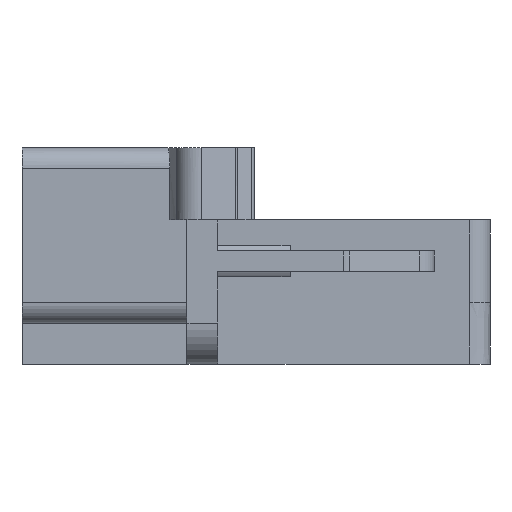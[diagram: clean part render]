
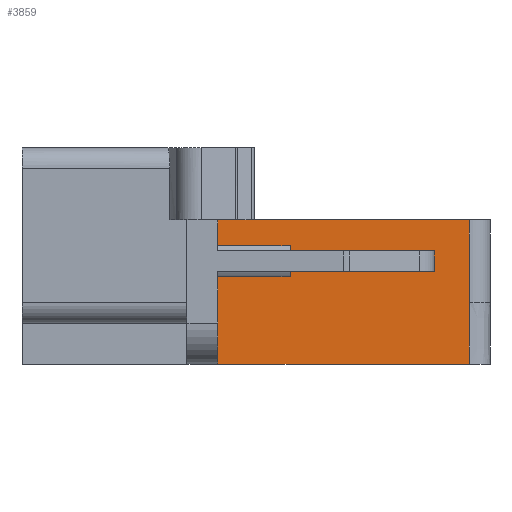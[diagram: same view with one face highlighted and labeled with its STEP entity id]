
A CAD part, left-side view. The second image highlights one B-rep face of the part: STEP entity #3859.
In plain terms, the highlighted planar face has unit normal (-1, 0, 0).
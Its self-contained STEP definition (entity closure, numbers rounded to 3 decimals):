
#75=AXIS2_PLACEMENT_3D('Plane Axis2P3D',#72,#73,#74) ;
#72=CARTESIAN_POINT('Axis2P3D Location',(-1.,9.8,0.)) ;
#1169=CARTESIAN_POINT('Vertex',(-1.,23.,0.)) ;
#1172=CARTESIAN_POINT('Line Origine',(-1.,22.864,0.)) ;
#1176=CARTESIAN_POINT('Vertex',(-1.,22.728,0.)) ;
#2894=CARTESIAN_POINT('Vertex',(-1.,23.,-1.25)) ;
#2897=CARTESIAN_POINT('Line Origine',(-1.,23.,-0.625)) ;
#2910=CARTESIAN_POINT('Line Origine',(-1.,16.764,0.)) ;
#2914=CARTESIAN_POINT('Vertex',(-1.,10.8,0.)) ;
#3111=CARTESIAN_POINT('Line Origine',(-1.,23.,-5.5)) ;
#3115=CARTESIAN_POINT('Vertex',(-1.,23.,-7.)) ;
#3117=CARTESIAN_POINT('Vertex',(-1.,23.,-4.)) ;
#3120=CARTESIAN_POINT('Line Origine',(-1.,23.,-3.375)) ;
#3124=CARTESIAN_POINT('Vertex',(-1.,23.,-2.75)) ;
#3178=CARTESIAN_POINT('Vertex',(-1.,19.5,-2.5)) ;
#3181=CARTESIAN_POINT('Line Origine',(-1.,16.,-2.5)) ;
#3185=CARTESIAN_POINT('Vertex',(-1.,12.5,-2.5)) ;
#3266=CARTESIAN_POINT('Vertex',(-1.,12.5,-1.5)) ;
#3269=CARTESIAN_POINT('Line Origine',(-1.,16.,-1.5)) ;
#3273=CARTESIAN_POINT('Vertex',(-1.,19.5,-1.5)) ;
#3309=CARTESIAN_POINT('Vertex',(-1.,19.5,-2.75)) ;
#3312=CARTESIAN_POINT('Line Origine',(-1.,19.5,-2.625)) ;
#3328=CARTESIAN_POINT('Line Origine',(-1.,22.,-2.75)) ;
#3349=CARTESIAN_POINT('Vertex',(-1.,10.8,-4.)) ;
#3359=CARTESIAN_POINT('Line Origine',(-1.,10.8,-2.)) ;
#3375=CARTESIAN_POINT('Vertex',(-1.,19.5,-1.25)) ;
#3378=CARTESIAN_POINT('Line Origine',(-1.,22.,-1.25)) ;
#3390=CARTESIAN_POINT('Line Origine',(-1.,19.5,-1.375)) ;
#3411=CARTESIAN_POINT('Line Origine',(-1.,12.5,-2.)) ;
#3763=CARTESIAN_POINT('Line Origine',(-1.,10.8,-4.89)) ;
#3767=CARTESIAN_POINT('Vertex',(-1.,10.8,-7.)) ;
#3802=CARTESIAN_POINT('Control Point',(-1.,23.,-7.)) ;
#3803=CARTESIAN_POINT('Control Point',(-1.,19.95,-7.)) ;
#3804=CARTESIAN_POINT('Control Point',(-1.,16.9,-7.)) ;
#3805=CARTESIAN_POINT('Control Point',(-1.,13.85,-7.)) ;
#3806=CARTESIAN_POINT('Control Point',(-1.,10.8,-7.)) ;
#73=DIRECTION('Axis2P3D Direction',(-1.,0.,0.)) ;
#74=DIRECTION('Axis2P3D XDirection',(0.,1.,0.)) ;
#1173=DIRECTION('Vector Direction',(0.,1.,0.)) ;
#2898=DIRECTION('Vector Direction',(0.,0.,1.)) ;
#2911=DIRECTION('Vector Direction',(0.,1.,0.)) ;
#3112=DIRECTION('Vector Direction',(0.,0.,1.)) ;
#3121=DIRECTION('Vector Direction',(0.,0.,1.)) ;
#3182=DIRECTION('Vector Direction',(0.,1.,0.)) ;
#3270=DIRECTION('Vector Direction',(0.,1.,0.)) ;
#3313=DIRECTION('Vector Direction',(0.,0.,-1.)) ;
#3329=DIRECTION('Vector Direction',(0.,1.,0.)) ;
#3360=DIRECTION('Vector Direction',(0.,0.,-1.)) ;
#3379=DIRECTION('Vector Direction',(0.,1.,0.)) ;
#3391=DIRECTION('Vector Direction',(0.,0.,-1.)) ;
#3412=DIRECTION('Vector Direction',(0.,0.,1.)) ;
#3764=DIRECTION('Vector Direction',(0.,0.,1.)) ;
#1174=VECTOR('Line Direction',#1173,1.) ;
#2899=VECTOR('Line Direction',#2898,1.) ;
#2912=VECTOR('Line Direction',#2911,1.) ;
#3113=VECTOR('Line Direction',#3112,1.) ;
#3122=VECTOR('Line Direction',#3121,1.) ;
#3183=VECTOR('Line Direction',#3182,1.) ;
#3271=VECTOR('Line Direction',#3270,1.) ;
#3314=VECTOR('Line Direction',#3313,1.) ;
#3330=VECTOR('Line Direction',#3329,1.) ;
#3361=VECTOR('Line Direction',#3360,1.) ;
#3380=VECTOR('Line Direction',#3379,1.) ;
#3392=VECTOR('Line Direction',#3391,1.) ;
#3413=VECTOR('Line Direction',#3412,1.) ;
#3765=VECTOR('Line Direction',#3764,1.) ;
#3843=ORIENTED_EDGE('',*,*,#3316,.T.) ;
#3844=ORIENTED_EDGE('',*,*,#3332,.F.) ;
#3845=ORIENTED_EDGE('',*,*,#3126,.F.) ;
#3846=ORIENTED_EDGE('',*,*,#3119,.F.) ;
#3847=ORIENTED_EDGE('',*,*,#3807,.F.) ;
#3848=ORIENTED_EDGE('',*,*,#3769,.T.) ;
#3849=ORIENTED_EDGE('',*,*,#3363,.F.) ;
#3850=ORIENTED_EDGE('',*,*,#2916,.T.) ;
#3851=ORIENTED_EDGE('',*,*,#1178,.T.) ;
#3852=ORIENTED_EDGE('',*,*,#2901,.F.) ;
#3853=ORIENTED_EDGE('',*,*,#3382,.T.) ;
#3854=ORIENTED_EDGE('',*,*,#3394,.T.) ;
#3855=ORIENTED_EDGE('',*,*,#3275,.F.) ;
#3856=ORIENTED_EDGE('',*,*,#3415,.F.) ;
#3857=ORIENTED_EDGE('',*,*,#3187,.T.) ;
#3859=ADVANCED_FACE('\X2\96F64EF651E04F554F53\X0\',(#3858),#76,.T.) ;
#3801=B_SPLINE_CURVE_WITH_KNOTS('',4,(#3802,#3803,#3804,#3805,#3806),.UNSPECIFIED.,.F.,.U.,(5,5),(0.,12.2),.UNSPECIFIED.) ;
#1178=EDGE_CURVE('',#1177,#1170,#1175,.T.) ;
#2901=EDGE_CURVE('',#2895,#1170,#2900,.T.) ;
#2916=EDGE_CURVE('',#2915,#1177,#2913,.T.) ;
#3119=EDGE_CURVE('',#3116,#3118,#3114,.T.) ;
#3126=EDGE_CURVE('',#3118,#3125,#3123,.T.) ;
#3187=EDGE_CURVE('',#3186,#3179,#3184,.T.) ;
#3275=EDGE_CURVE('',#3267,#3274,#3272,.T.) ;
#3316=EDGE_CURVE('',#3179,#3310,#3315,.T.) ;
#3332=EDGE_CURVE('',#3125,#3310,#3331,.F.) ;
#3363=EDGE_CURVE('',#2915,#3350,#3362,.T.) ;
#3382=EDGE_CURVE('',#2895,#3376,#3381,.F.) ;
#3394=EDGE_CURVE('',#3376,#3274,#3393,.T.) ;
#3415=EDGE_CURVE('',#3186,#3267,#3414,.T.) ;
#3769=EDGE_CURVE('',#3768,#3350,#3766,.T.) ;
#3807=EDGE_CURVE('',#3768,#3116,#3801,.F.) ;
#3842=EDGE_LOOP('',(#3843,#3844,#3845,#3846,#3847,#3848,#3849,#3850,#3851,#3852,#3853,#3854,#3855,#3856,#3857)) ;
#3858=FACE_OUTER_BOUND('',#3842,.T.) ;
#1175=LINE('Line',#1172,#1174) ;
#2900=LINE('Line',#2897,#2899) ;
#2913=LINE('Line',#2910,#2912) ;
#3114=LINE('Line',#3111,#3113) ;
#3123=LINE('Line',#3120,#3122) ;
#3184=LINE('Line',#3181,#3183) ;
#3272=LINE('Line',#3269,#3271) ;
#3315=LINE('Line',#3312,#3314) ;
#3331=LINE('Line',#3328,#3330) ;
#3362=LINE('Line',#3359,#3361) ;
#3381=LINE('Line',#3378,#3380) ;
#3393=LINE('Line',#3390,#3392) ;
#3414=LINE('Line',#3411,#3413) ;
#3766=LINE('Line',#3763,#3765) ;
#76=PLANE('Plane',#75) ;
#1170=VERTEX_POINT('',#1169) ;
#1177=VERTEX_POINT('',#1176) ;
#2895=VERTEX_POINT('',#2894) ;
#2915=VERTEX_POINT('',#2914) ;
#3116=VERTEX_POINT('',#3115) ;
#3118=VERTEX_POINT('',#3117) ;
#3125=VERTEX_POINT('',#3124) ;
#3179=VERTEX_POINT('',#3178) ;
#3186=VERTEX_POINT('',#3185) ;
#3267=VERTEX_POINT('',#3266) ;
#3274=VERTEX_POINT('',#3273) ;
#3310=VERTEX_POINT('',#3309) ;
#3350=VERTEX_POINT('',#3349) ;
#3376=VERTEX_POINT('',#3375) ;
#3768=VERTEX_POINT('',#3767) ;
